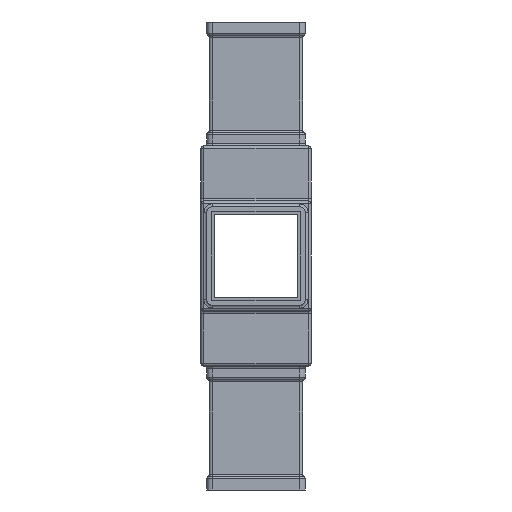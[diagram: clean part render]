
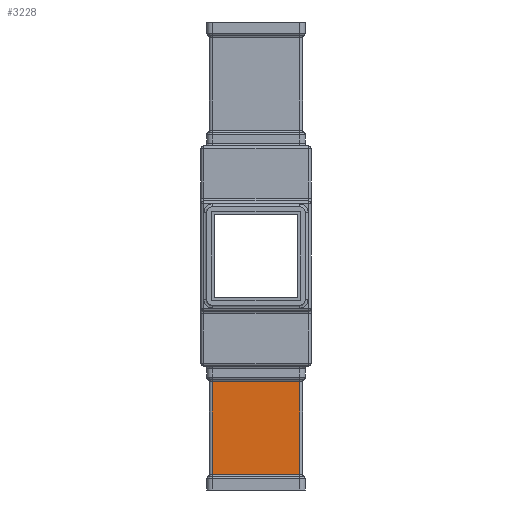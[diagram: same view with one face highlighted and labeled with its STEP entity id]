
A CAD part, left-side view. The second image highlights one B-rep face of the part: STEP entity #3228.
In plain terms, the highlighted planar face has unit normal (-1, 0, 0).
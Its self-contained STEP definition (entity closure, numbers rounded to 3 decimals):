
#173 = AXIS2_PLACEMENT_3D ( 'NONE', #9467, #5025, #6843 ) ;
#389 = EDGE_CURVE ( 'NONE', #4189, #8445, #6454, .T. ) ;
#563 = DIRECTION ( 'NONE',  ( 0., 1., 0. ) ) ;
#1165 = EDGE_CURVE ( 'NONE', #5466, #6435, #7864, .T. ) ;
#1338 = VECTOR ( 'NONE', #3234, 1000. ) ;
#1721 = VECTOR ( 'NONE', #7734, 1000. ) ;
#2181 = ORIENTED_EDGE ( 'NONE', *, *, #389, .T. ) ;
#2501 = ORIENTED_EDGE ( 'NONE', *, *, #1165, .T. ) ;
#3025 = FACE_OUTER_BOUND ( 'NONE', #9857, .T. ) ;
#3228 = ADVANCED_FACE ( 'NONE', ( #3025 ), #10612, .T. ) ;
#3234 = DIRECTION ( 'NONE',  ( 0., 0., 1. ) ) ;
#4189 = VERTEX_POINT ( 'NONE', #5209 ) ;
#4208 = CARTESIAN_POINT ( 'NONE',  ( -16.9, 4.1, -45. ) ) ;
#4297 = LINE ( 'NONE', #9720, #11762 ) ;
#4749 = EDGE_CURVE ( 'NONE', #6435, #4189, #4297, .T. ) ;
#5025 = DIRECTION ( 'NONE',  ( -1., 0., 0. ) ) ;
#5209 = CARTESIAN_POINT ( 'NONE',  ( -16.9, 35.9, -45.732 ) ) ;
#5466 = VERTEX_POINT ( 'NONE', #7138 ) ;
#6253 = VECTOR ( 'NONE', #11263, 1000. ) ;
#6435 = VERTEX_POINT ( 'NONE', #10379 ) ;
#6454 = LINE ( 'NONE', #6764, #1721 ) ;
#6699 = LINE ( 'NONE', #11372, #6253 ) ;
#6764 = CARTESIAN_POINT ( 'NONE',  ( -16.9, 35.9, -45. ) ) ;
#6843 = DIRECTION ( 'NONE',  ( 0., 0., 1. ) ) ;
#7138 = CARTESIAN_POINT ( 'NONE',  ( -16.9, 4.1, -79.268 ) ) ;
#7734 = DIRECTION ( 'NONE',  ( 0., 0., -1. ) ) ;
#7864 = LINE ( 'NONE', #4208, #1338 ) ;
#7902 = CARTESIAN_POINT ( 'NONE',  ( -16.9, 35.9, -79.268 ) ) ;
#8175 = EDGE_CURVE ( 'NONE', #8445, #5466, #6699, .T. ) ;
#8445 = VERTEX_POINT ( 'NONE', #7902 ) ;
#8467 = ORIENTED_EDGE ( 'NONE', *, *, #8175, .T. ) ;
#9467 = CARTESIAN_POINT ( 'NONE',  ( -16.9, 3.1, -45. ) ) ;
#9542 = ORIENTED_EDGE ( 'NONE', *, *, #4749, .T. ) ;
#9720 = CARTESIAN_POINT ( 'NONE',  ( -16.9, 0., -45.732 ) ) ;
#9857 = EDGE_LOOP ( 'NONE', ( #2501, #9542, #2181, #8467 ) ) ;
#10379 = CARTESIAN_POINT ( 'NONE',  ( -16.9, 4.1, -45.732 ) ) ;
#10612 = PLANE ( 'NONE',  #173 ) ;
#11263 = DIRECTION ( 'NONE',  ( 0., -1., 0. ) ) ;
#11372 = CARTESIAN_POINT ( 'NONE',  ( -16.9, 3.1, -79.268 ) ) ;
#11762 = VECTOR ( 'NONE', #563, 1000. ) ;
